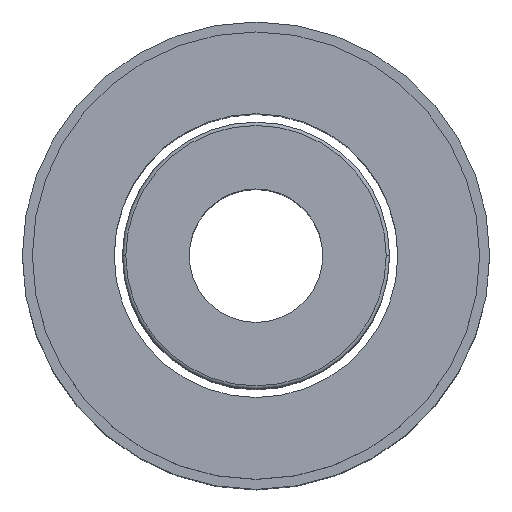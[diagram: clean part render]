
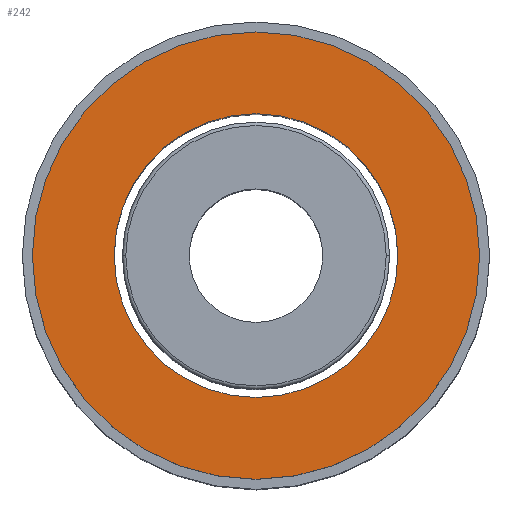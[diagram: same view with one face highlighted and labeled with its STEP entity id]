
A CAD part, top view. The second image highlights one B-rep face of the part: STEP entity #242.
In plain terms, the highlighted planar face has unit normal (0, 0, 1).
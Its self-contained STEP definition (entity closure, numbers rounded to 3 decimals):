
#38 = ORIENTED_EDGE ( 'NONE', *, *, #56, .F. ) ;
#56 = EDGE_CURVE ( 'NONE', #276, #598, #332, .T. ) ;
#60 = CIRCLE ( 'NONE', #613, 4.25 ) ;
#76 = ORIENTED_EDGE ( 'NONE', *, *, #805, .T. ) ;
#78 = CARTESIAN_POINT ( 'NONE',  ( -4.25, 0., 0. ) ) ;
#95 = DIRECTION ( 'NONE',  ( 0., 0., -1. ) ) ;
#100 = CARTESIAN_POINT ( 'NONE',  ( 4.25, 0., 0. ) ) ;
#130 = DIRECTION ( 'NONE',  ( -1., 0., 0. ) ) ;
#146 = PLANE ( 'NONE',  #881 ) ;
#201 = EDGE_CURVE ( 'NONE', #428, #914, #567, .T. ) ;
#204 = AXIS2_PLACEMENT_3D ( 'NONE', #795, #327, #790 ) ;
#228 = DIRECTION ( 'NONE',  ( -1., 0., 0. ) ) ;
#242 = ADVANCED_FACE ( 'NONE', ( #554, #565 ), #146, .T. ) ;
#248 = EDGE_LOOP ( 'NONE', ( #76, #311 ) ) ;
#276 = VERTEX_POINT ( 'NONE', #641 ) ;
#311 = ORIENTED_EDGE ( 'NONE', *, *, #201, .T. ) ;
#327 = DIRECTION ( 'NONE',  ( 0., 0., -1. ) ) ;
#332 = CIRCLE ( 'NONE', #818, 6.7 ) ;
#367 = DIRECTION ( 'NONE',  ( 0., 0., 1. ) ) ;
#384 = AXIS2_PLACEMENT_3D ( 'NONE', #494, #95, #228 ) ;
#428 = VERTEX_POINT ( 'NONE', #100 ) ;
#475 = CARTESIAN_POINT ( 'NONE',  ( 0., 0., 0. ) ) ;
#479 = DIRECTION ( 'NONE',  ( -1., 0., 0. ) ) ;
#483 = DIRECTION ( 'NONE',  ( 0., 0., -1. ) ) ;
#494 = CARTESIAN_POINT ( 'NONE',  ( 0., 0., 0. ) ) ;
#514 = CARTESIAN_POINT ( 'NONE',  ( 0., 6.7, 0. ) ) ;
#526 = EDGE_CURVE ( 'NONE', #598, #276, #785, .T. ) ;
#534 = CARTESIAN_POINT ( 'NONE',  ( 0., 0., 0. ) ) ;
#554 = FACE_BOUND ( 'NONE', #248, .T. ) ;
#565 = FACE_OUTER_BOUND ( 'NONE', #837, .T. ) ;
#567 = CIRCLE ( 'NONE', #384, 4.25 ) ;
#578 = ORIENTED_EDGE ( 'NONE', *, *, #526, .F. ) ;
#598 = VERTEX_POINT ( 'NONE', #802 ) ;
#613 = AXIS2_PLACEMENT_3D ( 'NONE', #475, #820, #479 ) ;
#641 = CARTESIAN_POINT ( 'NONE',  ( -6.7, 0., 0. ) ) ;
#785 = CIRCLE ( 'NONE', #204, 6.7 ) ;
#787 = DIRECTION ( 'NONE',  ( 1., 0., 0. ) ) ;
#790 = DIRECTION ( 'NONE',  ( -1., 0., 0. ) ) ;
#795 = CARTESIAN_POINT ( 'NONE',  ( 0., 0., 0. ) ) ;
#802 = CARTESIAN_POINT ( 'NONE',  ( 6.7, 0., 0. ) ) ;
#805 = EDGE_CURVE ( 'NONE', #914, #428, #60, .T. ) ;
#818 = AXIS2_PLACEMENT_3D ( 'NONE', #534, #483, #130 ) ;
#820 = DIRECTION ( 'NONE',  ( 0., 0., -1. ) ) ;
#837 = EDGE_LOOP ( 'NONE', ( #38, #578 ) ) ;
#881 = AXIS2_PLACEMENT_3D ( 'NONE', #514, #367, #787 ) ;
#914 = VERTEX_POINT ( 'NONE', #78 ) ;
